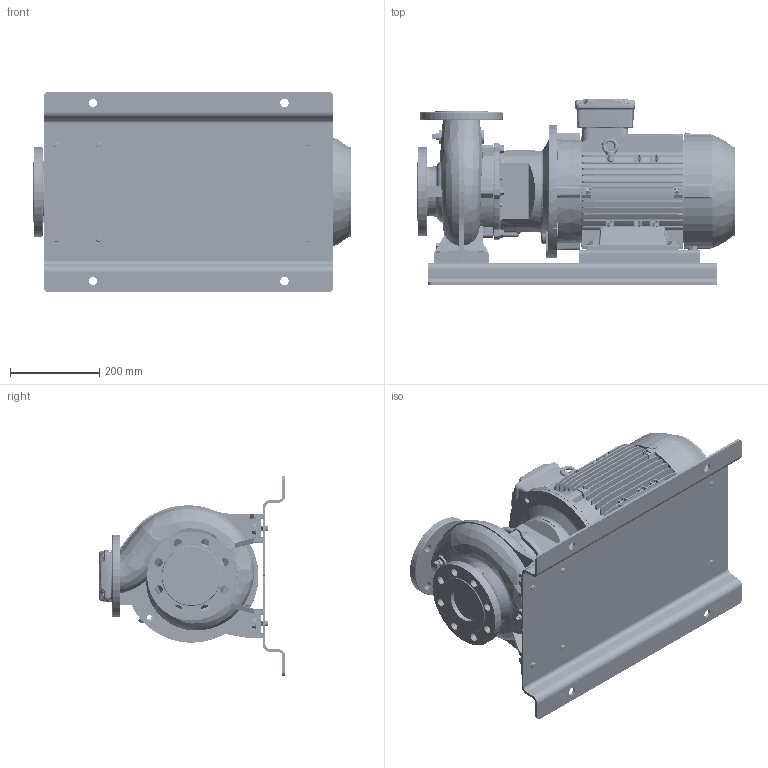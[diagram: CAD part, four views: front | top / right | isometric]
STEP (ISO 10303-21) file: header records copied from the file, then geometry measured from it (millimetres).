
FILE_DESCRIPTION (( 'STEP AP214' ), '1' );
FILE_NAME ('GSD2 65-125_9.2_(132M)_W21_BP.STEP', '2024-07-30T05:19:06', ( '' ), ( '' ), 'SwSTEP 2.0', 'SolidWorks 2019', '' );
FILE_SCHEMA (( 'AUTOMOTIVE_DESIGN' ));
Length unit declared in the file: millimetre
Products named in the file (20): Parametric bolt_SFT-A257B; Parametric bolt_SFT-A253B; Parametric bolt and washer_SFT-A299B; 140_178 x 28 - 271472025; Parametric bolt and washer_SFT-A253B; 65-125-132M_______; Parametric bolt_SFT-A299B; Parametric Flat Washer_M12; GSD2  65-125_9.2_(132M)_W21_BP; Parametric bolt and washer_SFT-A275B; N4S4 GSDA-442 F1-1832913-00; 132M ALIE3_W21T_B35; Parametric Flat Washer_M10
Assembly tree (35 placements, depth 3):
  GSD2  65-125_9.2_(132M)_W21_BP
    65-125-132M_______
    N4S4 GSDA-442 F1-1832913-00
    140_178 x 28 - 271472025  x2
    Parametric bolt and washer_SFT-A299B
      Parametric bolt_SFT-A299B
      Parametric Flat Washer_M12
    Parametric bolt and washer_SFT-A299B
      Parametric bolt_SFT-A299B
      Parametric Flat Washer_M12
    Parametric bolt and washer_SFT-A299B
      Parametric bolt_SFT-A299B
      Parametric Flat Washer_M12
    Parametric bolt and washer_SFT-A299B
      Parametric bolt_SFT-A299B
      Parametric Flat Washer_M12
    Parametric bolt and washer_SFT-A253B
      Parametric bolt_SFT-A253B
      Parametric Flat Washer_M10
    Parametric bolt and washer_SFT-A253B
      Parametric bolt_SFT-A253B
      Parametric Flat Washer_M10
    Parametric bolt and washer_SFT-A253B
      Parametric bolt_SFT-A253B
      Parametric Flat Washer_M10
    Parametric bolt and washer_SFT-A253B
      Parametric bolt_SFT-A253B
      Parametric Flat Washer_M10
    Parametric bolt and washer_SFT-A275B
      Parametric bolt_SFT-A257B
      Parametric Flat Washer_M10
    Parametric bolt and washer_SFT-A275B
      Parametric bolt_SFT-A257B
      Parametric Flat Washer_M10
    132M ALIE3_W21T_B35
Bounding box: 714.8 x 418 x 450 mm (x, y, z)
Volume: 30866928.9 mm3; surface area: 2645073.8 mm2
Topology: 35 solids, 35 shells, 4976 faces, 12993 edges, 8396 vertices
Faces by surface type: plane 2899, cylinder 1253, torus 319, bspline 268, cone 205, sphere 32
Entity records: 218714 total; most frequent: CARTESIAN_POINT 70491, ORIENTED_EDGE 23734, DIRECTION 21258, EDGE_CURVE 11867, VECTOR 7836, LINE 7836, VERTEX_POINT 7680, AXIS2_PLACEMENT_3D 6711
